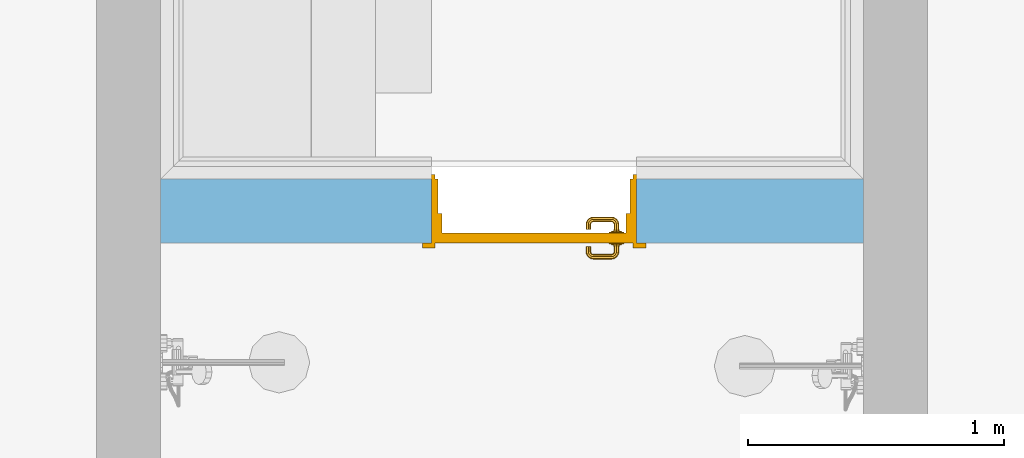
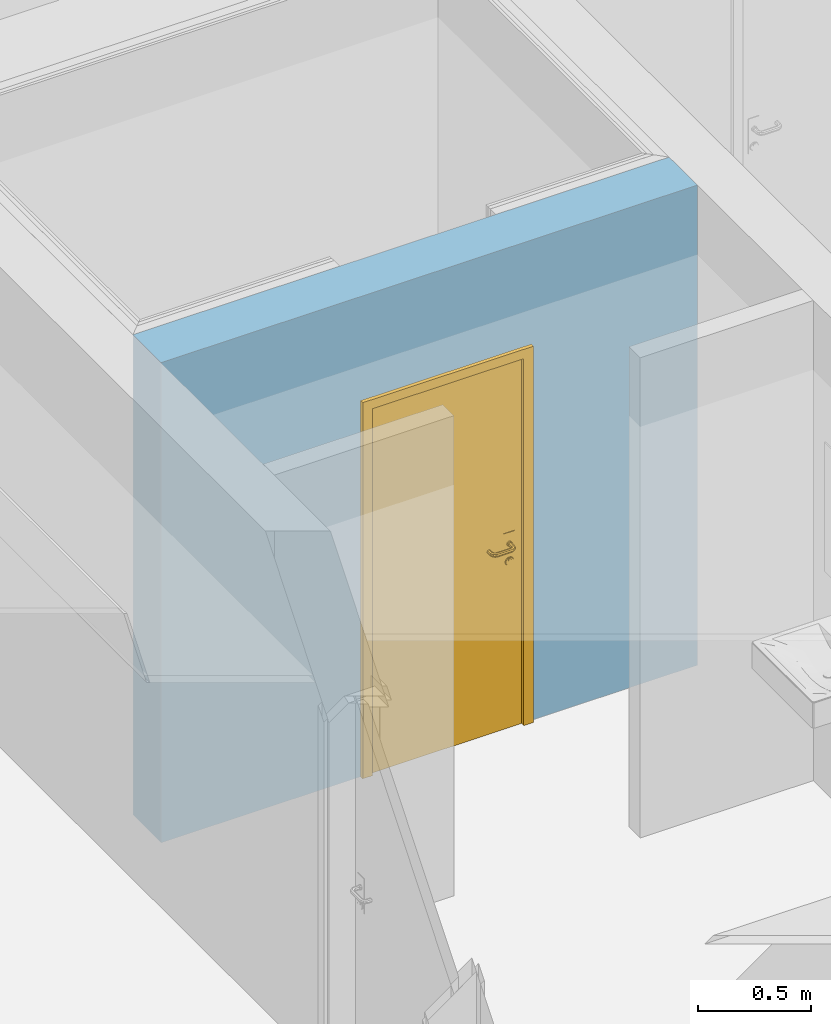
# One storey, part 41 of 127: 1 door, 1 opening, plus 1 element that does not belong to this part.
"""IFC2X3 building model written with IfcOpenShell, lengths in millimetres."""

import ifcopenshell
import ifcopenshell.guid

model = None  # the IFC model being written
_history = None  # IfcOwnerHistory: only IFC2X3 demands one
_inside = {}  # id of a spatial element -> (the spatial element, [elements in it])
_under = {}  # id of a project, library or spatial element -> (it, [spatial elements below it])
_declared = {}  # id of a project -> (the project, [libraries it declares])
_typed = {}  # id of a type object -> (the type object, [elements of that type])
_made_of = {}  # id of a material, layer set ... -> (it, [elements and type objects made of it])


def new_model(schema):
    """Start an empty IFC model of exactly this schema.

    Asked for "IFC4X3", IfcOpenShell would pick the latest addendum, in which some entities
    have other attributes; the version numbers below select the first issue.
    IFC2X3 requires an IfcOwnerHistory on every rooted entity: one is made here for all.
    """
    global model, _history
    if schema == "IFC4X3":
        model = ifcopenshell.file(schema_version=(4, 3, 0, 0))
    else:
        model = ifcopenshell.file(schema=schema)
    _inside.clear()
    _under.clear()
    _declared.clear()
    _typed.clear()
    _made_of.clear()
    _history = None
    if model.schema == "IFC2X3":
        org = make("IfcOrganization", Name="unknown")
        user = make(
            "IfcPersonAndOrganization",
            ThePerson=make("IfcPerson", FamilyName="unknown"),
            TheOrganization=org,
        )
        app = make(
            "IfcApplication",
            ApplicationDeveloper=org,
            Version="unknown",
            ApplicationFullName="unknown",
            ApplicationIdentifier="unknown",
        )
        _history = make(
            "IfcOwnerHistory",
            OwningUser=user,
            OwningApplication=app,
            ChangeAction="ADDED",
            CreationDate=0,
        )
    return model


def make(cls, **values):
    """One entity of the class cls with the attributes given. An attribute that is None is left unset."""
    return model.create_entity(
        cls, **{name: value for name, value in values.items() if value is not None}
    )


def entity(cls, *values):
    """Any entity or typed value of the class cls, its attributes in the order of the schema. None: left unset."""
    e = model.create_entity(cls)
    for i, value in enumerate(values):
        if value is not None:
            e[i] = value
    return e


def rooted(cls, **values):
    """An entity with a GlobalId (a new one), such as an element, a storey or a relation."""
    return make(cls, GlobalId=ifcopenshell.guid.new(), OwnerHistory=_history, **values)


def si_unit(unit_type, name, prefix=None):
    """IfcSIUnit, for example si_unit("LENGTHUNIT", "METRE", prefix="MILLI")."""
    return make("IfcSIUnit", UnitType=unit_type, Prefix=prefix, Name=name)


def converted_unit(unit_type, name, factor, base, dimensions=None, offset=None):
    """IfcConversionBasedUnit, such as the inch: factor (a typed value) times the base unit."""
    return make(
        "IfcConversionBasedUnit"
        if offset is None
        else "IfcConversionBasedUnitWithOffset",
        ConversionOffset=offset,
        Dimensions=None
        if dimensions is None
        else entity("IfcDimensionalExponents", *dimensions),
        UnitType=unit_type,
        Name=name,
        ConversionFactor=make(
            "IfcMeasureWithUnit", ValueComponent=factor, UnitComponent=base
        ),
    )


def derived_unit(unit_type, elements):
    """IfcDerivedUnit: a product of units, each with its exponent."""
    return make(
        "IfcDerivedUnit",
        Elements=[
            make("IfcDerivedUnitElement", Unit=unit, Exponent=power)
            for unit, power in elements
        ],
        UnitType=unit_type,
    )


def money_unit(currency):
    """IfcMonetaryUnit."""
    return make("IfcMonetaryUnit", Currency=currency)


def assignment(units):
    """IfcUnitAssignment: the units of a project."""
    return None if units is None else make("IfcUnitAssignment", Units=units)


def point(xyz):
    """IfcCartesianPoint."""
    return None if xyz is None else make("IfcCartesianPoint", Coordinates=xyz)


def direction(xyz):
    """IfcDirection."""
    return None if xyz is None else make("IfcDirection", DirectionRatios=xyz)


def frame(location, z_axis=None, x_axis=None):
    """IfcAxis2Placement3D, a coordinate frame: its origin and axes. An axis left out is left unset."""
    return make(
        "IfcAxis2Placement3D",
        Location=point(location),
        Axis=direction(z_axis),
        RefDirection=direction(x_axis),
    )


def frame_2d(location, x_axis=None):
    """IfcAxis2Placement2D, a coordinate frame in the plane: its origin and x axis."""
    return make(
        "IfcAxis2Placement2D", Location=point(location), RefDirection=direction(x_axis)
    )


def origin_with_axes():
    """The frame at (0, 0, 0) with the z axis (0, 0, 1) and the x axis (1, 0, 0) written out."""
    return frame((0.0, 0.0, 0.0), z_axis=(0.0, 0.0, 1.0), x_axis=(1.0, 0.0, 0.0))


def origin_2d_with_axis():
    """The frame at (0, 0) in the plane with the x axis (1, 0) written out."""
    return frame_2d((0.0, 0.0), x_axis=(1.0, 0.0))


def place(relative_to, where):
    """IfcLocalPlacement: puts the frame where relative to a parent placement (None: the world)."""
    return make(
        "IfcLocalPlacement", PlacementRelTo=relative_to, RelativePlacement=where
    )


def context(
    kind, dimensions, precision=None, world=None, true_north=None, identifier=None
):
    """IfcGeometricRepresentationContext, for example the 3D "Model" context."""
    return make(
        "IfcGeometricRepresentationContext",
        ContextIdentifier=identifier,
        ContextType=kind,
        CoordinateSpaceDimension=dimensions,
        Precision=precision,
        WorldCoordinateSystem=world,
        TrueNorth=true_north,
    )


def subcontext(parent, identifier, kind, view, scale=None):
    """IfcGeometricRepresentationSubContext, for example "Body" below "Model"."""
    return make(
        "IfcGeometricRepresentationSubContext",
        ContextIdentifier=identifier,
        ContextType=kind,
        ParentContext=parent,
        TargetScale=scale,
        TargetView=view,
    )


def project(units=None, contexts=None):
    """IfcProject with its units and contexts."""
    return rooted(
        "IfcProject",
        Name="project",
        RepresentationContexts=contexts,
        UnitsInContext=assignment(units),
    )


def spatial(cls, under=None, at=None, **own):
    """A site, building, storey or space (cls), placed at a placement, below another one or the project."""
    s = rooted(cls, ObjectPlacement=at, **own)
    if under is not None:
        _under.setdefault(under.id(), (under, []))[1].append(s)
    return s


def polyline(points):
    """IfcPolyline through the points."""
    return make("IfcPolyline", Points=[point(p) for p in points])


def profile(cls, at=None, kind="AREA", **sizes):
    """A parametric profile (cls). Its sizes go by their IFC names, for example OverallWidth=200.0."""
    return make(cls, ProfileType=kind, Position=at, **sizes)


def rectangle(**sizes):
    """IfcRectangleProfileDef."""
    return profile("IfcRectangleProfileDef", **sizes)


def outline(outer, holes=None, kind="AREA"):
    """IfcArbitraryClosedProfileDef: a profile drawn as a closed curve; with holes, ...WithVoids."""
    if holes is None:
        return make("IfcArbitraryClosedProfileDef", ProfileType=kind, OuterCurve=outer)
    return make(
        "IfcArbitraryProfileDefWithVoids",
        ProfileType=kind,
        OuterCurve=outer,
        InnerCurves=holes,
    )


def extrude(swept, where, along, depth):
    """IfcExtrudedAreaSolid: the profile swept, set in the frame where, extruded along a direction by depth."""
    return make(
        "IfcExtrudedAreaSolid",
        SweptArea=swept,
        Position=where,
        ExtrudedDirection=direction(along),
        Depth=depth,
    )


def faces_of(points, faces, orient=None, outer=None):
    """IfcFace entities. A face is a list of loops; a loop is a list of indices into points, from 0.

    orient and outer hold one flag for each loop. By default every Orientation is true, the
    first loop of a face is its IfcFaceOuterBound and the others are IfcFaceBound.
    """
    made = []
    for i, loops in enumerate(faces):
        bounds = []
        for j, loop in enumerate(loops):
            is_outer = j == 0 if outer is None else outer[i][j]
            bounds.append(
                make(
                    "IfcFaceOuterBound" if is_outer else "IfcFaceBound",
                    Bound=make("IfcPolyLoop", Polygon=[points[k] for k in loop]),
                    Orientation=True if orient is None else orient[i][j],
                )
            )
        made.append(make("IfcFace", Bounds=bounds))
    return made


def open_shell(faces, orient=None, outer=None):
    """The faces of one IfcOpenShell. surface_model builds it on its shared points."""
    return ("IfcOpenShell", faces, orient, outer)


def faceted_brep(points, faces, orient=None, outer=None, voids=None):
    """IfcFacetedBrep: a solid bounded by flat faces; with voids (closed shells), ...WithVoids."""
    shared = [point(p) for p in points]
    hull = make("IfcClosedShell", CfsFaces=faces_of(shared, faces, orient, outer))
    if voids is None:
        return make("IfcFacetedBrep", Outer=hull)
    return make(
        "IfcFacetedBrepWithVoids",
        Outer=hull,
        Voids=[
            make(cls, CfsFaces=faces_of(shared, fs, o, b)) for cls, fs, o, b in voids
        ],
    )


def surface_model(cls, points, shells):
    """IfcFaceBasedSurfaceModel or IfcShellBasedSurfaceModel (cls): surfaces that need not close."""
    shared = [point(p) for p in points]
    made = [make(c, CfsFaces=faces_of(shared, fs, o, b)) for c, fs, o, b in shells]
    if cls == "IfcFaceBasedSurfaceModel":
        return make(cls, FbsmFaces=made)
    return make(cls, SbsmBoundary=made)


def shape(context_of_items, identifier, shape_type, items):
    """IfcShapeRepresentation: the items that make up one representation, for example the "Body"."""
    return make(
        "IfcShapeRepresentation",
        ContextOfItems=context_of_items,
        RepresentationIdentifier=identifier,
        RepresentationType=shape_type,
        Items=items,
    )


def material(Name=None, Category=None):
    """IfcMaterial."""
    return make("IfcMaterial", Name=Name, Category=Category)


def layer(
    of_material, thickness, ventilated=None, Name=None, Category=None, Priority=None
):
    """IfcMaterialLayer: one layer of a wall or slab, of a material (None: an air gap)."""
    return make(
        "IfcMaterialLayer",
        Material=of_material,
        LayerThickness=thickness,
        IsVentilated=ventilated,
        Name=Name,
        Category=Category,
        Priority=Priority,
    )


def layer_set(layers, Name=None):
    """IfcMaterialLayerSet."""
    return make("IfcMaterialLayerSet", MaterialLayers=layers, LayerSetName=Name)


def layer_usage(for_layer_set, set_direction, sense, offset, extent=None):
    """IfcMaterialLayerSetUsage: how a layer set lies in its element."""
    return make(
        "IfcMaterialLayerSetUsage",
        ForLayerSet=for_layer_set,
        LayerSetDirection=set_direction,
        DirectionSense=sense,
        OffsetFromReferenceLine=offset,
        ReferenceExtent=extent,
    )


def made_of(thing, what):
    """Note that an element or type object is made of a material, layer set ...; save() writes the relation."""
    if what is not None:
        _made_of.setdefault(what.id(), (what, []))[1].append(thing)
    return thing


def type_object(cls, material=None, **own):
    """A type object (cls), such as IfcWallType, which elements share."""
    return made_of(rooted(cls, **own), material)


def element(
    cls,
    number,
    at=None,
    inside=None,
    cuts=None,
    type_object=None,
    material=None,
    context=None,
    identifier="Body",
    shape_type=None,
    held_by="IfcProductDefinitionShape",
    body=None,
    shapes=None,
    **own,
):
    """One element of the class cls, such as IfcWall. Its Tag is "e" and its number.

    at: its placement. inside: the storey or other place that contains it. cuts: it is an
    opening in that element (IfcRelVoidsElement). A single representation is given by context,
    identifier, shape_type and body (its items); several are given by shapes. held_by: the class
    of the entity that holds the representations. save() writes the other relations.
    """
    e = rooted(cls, Tag="e%d" % number, ObjectPlacement=at, **own)
    if body is not None:
        shapes = [shape(context, identifier, shape_type, body)]
    if shapes is not None:
        e.Representation = make(held_by, Representations=shapes)
    if inside is not None:
        _inside.setdefault(inside.id(), (inside, []))[1].append(e)
    if cuts is not None:
        rooted(
            "IfcRelVoidsElement", RelatingBuildingElement=cuts, RelatedOpeningElement=e
        )
    if type_object is not None:
        _typed.setdefault(type_object.id(), (type_object, []))[1].append(e)
    return made_of(e, material)


def fill(opening, filler):
    """IfcRelFillsElement: the door or window that sits in an opening."""
    return rooted(
        "IfcRelFillsElement",
        RelatingOpeningElement=opening,
        RelatedBuildingElement=filler,
    )


def aggregate(whole, parts):
    """IfcRelAggregates: a whole, such as a stair, and the parts it consists of."""
    return rooted("IfcRelAggregates", RelatingObject=whole, RelatedObjects=parts)


def save(model, path):
    """Write the relations noted so far, then the file.

    IfcRelAggregates (storeys below a building ...), IfcRelContainedInSpatialStructure (elements
    in a storey), IfcRelDefinesByType, IfcRelAssociatesMaterial and IfcRelDeclares: one each for
    every whole, place, type object, material and project.
    """
    for whole, parts in _under.values():
        aggregate(whole, parts)
    for where, things in _inside.values():
        rooted(
            "IfcRelContainedInSpatialStructure",
            RelatedElements=things,
            RelatingStructure=where,
        )
    for kind, things in _typed.values():
        rooted("IfcRelDefinesByType", RelatedObjects=things, RelatingType=kind)
    for what, things in _made_of.values():
        rooted("IfcRelAssociatesMaterial", RelatedObjects=things, RelatingMaterial=what)
    for by, libraries in _declared.values():
        rooted("IfcRelDeclares", RelatingContext=by, RelatedDefinitions=libraries)
    model.write(path)


model = new_model("IFC2X3")

# Units and contexts
model_context = context("Model", 3, precision=1e-05, world=origin_with_axes(), true_north=direction((0.0, 1.0)))
body_context = subcontext(model_context, "Body", "Model", "MODEL_VIEW")
ifc_project = project(units=[si_unit("LENGTHUNIT", "METRE", prefix="MILLI"), si_unit("AREAUNIT", "SQUARE_METRE"), si_unit("VOLUMEUNIT", "CUBIC_METRE"), converted_unit("PLANEANGLEUNIT", "DEGREE", entity("IfcPlaneAngleMeasure", 0.0174532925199), si_unit("PLANEANGLEUNIT", "RADIAN"), dimensions=[0, 0, 0, 0, 0, 0, 0]), si_unit("SOLIDANGLEUNIT", "STERADIAN"), money_unit("EUR"), converted_unit("TIMEUNIT", "Year", entity("IfcTimeMeasure", 31556926.0), si_unit("TIMEUNIT", "SECOND"), dimensions=[0, 0, 1, 0, 0, 0, 0]), si_unit("MASSUNIT", "GRAM", prefix="KILO"), si_unit("THERMODYNAMICTEMPERATUREUNIT", "DEGREE_CELSIUS"), si_unit("LUMINOUSINTENSITYUNIT", "LUMEN"), si_unit("ENERGYUNIT", "JOULE", prefix="MEGA"), derived_unit("THERMALCONDUCTANCEUNIT", [(si_unit("POWERUNIT", "WATT"), 1), (si_unit("LENGTHUNIT", "METRE"), -1), (si_unit("THERMODYNAMICTEMPERATUREUNIT", "KELVIN"), -1)]), derived_unit("SPECIFICHEATCAPACITYUNIT", [(si_unit("ENERGYUNIT", "JOULE"), 1), (si_unit("MASSUNIT", "GRAM", prefix="KILO"), -1), (si_unit("THERMODYNAMICTEMPERATUREUNIT", "KELVIN"), -1)]), derived_unit("MASSDENSITYUNIT", [(si_unit("MASSUNIT", "GRAM", prefix="KILO"), 1), (si_unit("VOLUMEUNIT", "CUBIC_METRE"), -1)])], contexts=[model_context])

# Site, building, storey
site_placement = place(None, origin_with_axes())
site = spatial("IfcSite", under=ifc_project, at=site_placement, Name="Site", CompositionType="ELEMENT")
building_placement = place(site_placement, origin_with_axes())
building = spatial("IfcBuilding", under=site, at=building_placement, Name="Building", CompositionType="ELEMENT")
storey_placement = place(building_placement, origin_with_axes())
storey = spatial("IfcBuildingStorey", under=building, at=storey_placement, Name="1 KORRUS", CompositionType="ELEMENT", Elevation=0.0)

# Wall, opening, door
ifc_material = material(Name="Kivi -Ol.Olev Konstruktsioon")
ifc_layer = layer(ifc_material, 250.0, ventilated="UNKNOWN")
ifc_layer_set = layer_set([ifc_layer], Name="ol.olev ss 250")
ifc_layer_usage = layer_usage(ifc_layer_set, "AXIS2", "POSITIVE", -250.0)
wall_type = type_object("IfcWallType", Name="SW - 036", PredefinedType="NOTDEFINED")
wall_placement = place(storey_placement, frame((27734.7274585, 62980.8824025, 0.0), z_axis=(0.0, 0.0, 1.0), x_axis=(-1.0, 0.0, 0.0)))
wall = element("IfcWallStandardCase", 1, at=wall_placement, inside=storey, type_object=wall_type, material=ifc_layer_usage, Name="ol.olev ss 250", context=body_context, shape_type="SweptSolid", body=[
    extrude(outline(polyline([(0.0, -250.0), (2746.59080501, -250.0), (2746.59080501, 0.0), (0.0, 0.0), (0.0, -250.0)])), origin_with_axes(), (0.0, 0.0, 1.0), 2600.0),
])
opening_placement = place(wall_placement, frame((1286.98121109, 0.0, 0.0), z_axis=(0.0, 0.0, 1.0), x_axis=(1.0, 0.0, 0.0)))
opening = element("IfcOpeningElement", 2, at=opening_placement, cuts=wall, Name="Sauna uks * Door 22", context=body_context, shape_type="SweptSolid", body=[
    extrude(rectangle(XDim=800.0, YDim=2000.0, at=origin_2d_with_axis()), frame((0.0, -250.0, 1000.0), z_axis=(0.0, 1.0, 0.0), x_axis=(1.0, 0.0, 0.0)), (0.0, 0.0, 1.0), 750.0),
    extrude(rectangle(XDim=874.0, YDim=2037.0, at=origin_2d_with_axis()), frame((0.0, -250.0, 1018.5), z_axis=(0.0, 1.0, 0.0), x_axis=(1.0, 0.0, 0.0)), (0.0, 0.0, -1.0), 250.0),
    extrude(rectangle(XDim=874.0, YDim=2037.0, at=origin_2d_with_axis()), frame((0.0, 0.0, 1018.5), z_axis=(0.0, -1.0, 0.0), x_axis=(1.0, 0.0, 0.0)), (0.0, 0.0, -1.0), 250.0),
])
door_style = type_object("IfcDoorStyle", Name="SU-A108B   800×2\xa0000", ConstructionType="NOTDEFINED", OperationType="SINGLE_SWING_RIGHT", ParameterTakesPrecedence=False, Sizeable=False)
door_placement = place(opening_placement, frame((-400.0, 0.0, 0.0), z_axis=(0.0, 0.0, 1.0), x_axis=(1.0, 0.0, 0.0)))
door = element("IfcDoor", 3, at=door_placement, inside=storey, type_object=door_style, Name="Sauna uks * Door 22", OverallHeight=2000.0, OverallWidth=800.0, context=body_context, shape_type="SurfaceModel", body=[
    faceted_brep([(0.0, -115.0, 0.0), (25.0, -115.0, 0.0), (25.0, -250.0, 0.0), (0.0, -250.0, 0.0), (0.0, -115.0, 2000.0), (25.0, -115.0, 1975.0), (25.0, -250.0, 1975.0), (0.0, -250.0, 2000.0)], [[[0, 1, 2, 3]], [[0, 4, 5, 1]], [[1, 5, 6, 2]], [[3, 2, 6, 7]], [[4, 0, 3, 7]], [[5, 4, 7, 6]]]),
    faceted_brep([(800.0, -115.0, 2000.0), (775.0, -115.0, 1975.0), (775.0, -250.0, 1975.0), (800.0, -250.0, 2000.0), (800.0, -115.0, 0.0), (775.0, -115.0, 0.0), (775.0, -250.0, 0.0), (800.0, -250.0, 0.0)], [[[0, 1, 2, 3]], [[0, 4, 5, 1]], [[1, 5, 6, 2]], [[3, 2, 6, 7]], [[4, 0, 3, 7]], [[5, 4, 7, 6]]]),
    faceted_brep([(25.0, -115.0, 1975.0), (775.0, -115.0, 1975.0), (775.0, -250.0, 1975.0), (25.0, -250.0, 1975.0), (0.0, -115.0, 2000.0), (800.0, -115.0, 2000.0), (800.0, -250.0, 2000.0), (0.0, -250.0, 2000.0)], [[[0, 1, 2, 3]], [[0, 4, 5, 1]], [[1, 5, 6, 2]], [[3, 2, 6, 7]], [[4, 0, 3, 7]], [[5, 4, 7, 6]]]),
    faceted_brep([(-37.0, -269.0, 0.0), (-37.0, -250.0, 0.0), (12.9999999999, -250.0, 0.0), (12.9999999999, -269.0, 0.0), (-37.0, -269.0, 2037.0), (-37.0, -250.0, 2037.0), (12.9999999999, -250.0, 1987.0), (12.9999999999, -269.0, 1987.0)], [[[0, 1, 2, 3]], [[4, 5, 1, 0]], [[1, 5, 6, 2]], [[3, 2, 6, 7]], [[0, 3, 7, 4]], [[7, 6, 5, 4]]]),
    faceted_brep([(837.0, -269.0, 2037.0), (837.0, -250.0, 2037.0), (787.0, -250.0, 1987.0), (787.0, -269.0, 1987.0), (837.0, -269.0, 0.0), (837.0, -250.0, 0.0), (787.0, -250.0, 0.0), (787.0, -269.0, 0.0)], [[[0, 1, 2, 3]], [[4, 5, 1, 0]], [[1, 5, 6, 2]], [[3, 2, 6, 7]], [[0, 3, 7, 4]], [[7, 6, 5, 4]]]),
    faceted_brep([(-37.0, -269.0, 2037.0), (-37.0, -250.0, 2037.0), (12.9999999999, -250.0, 1987.0), (12.9999999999, -269.0, 1987.0), (837.0, -269.0, 2037.0), (837.0, -250.0, 2037.0), (787.0, -250.0, 1987.0), (787.0, -269.0, 1987.0)], [[[0, 1, 2, 3]], [[4, 5, 1, 0]], [[1, 5, 6, 2]], [[3, 2, 6, 7]], [[0, 3, 7, 4]], [[7, 6, 5, 4]]]),
    faceted_brep([(-37.0, 19.0000000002, 0.0), (12.9999999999, 19.0000000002, 0.0), (12.9999999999, 0.0, 0.0), (-37.0, 0.0, 0.0), (-37.0, 19.0000000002, 2037.0), (12.9999999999, 19.0000000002, 1987.0), (12.9999999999, 0.0, 1987.0), (-37.0, 0.0, 2037.0)], [[[0, 1, 2, 3]], [[0, 4, 5, 1]], [[1, 5, 6, 2]], [[3, 2, 6, 7]], [[4, 0, 3, 7]], [[5, 4, 7, 6]]]),
    faceted_brep([(837.0, 19.0000000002, 2037.0), (787.0, 19.0000000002, 1987.0), (787.0, 0.0, 1987.0), (837.0, 0.0, 2037.0), (837.0, 19.0000000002, 0.0), (787.0, 19.0000000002, 0.0), (787.0, 0.0, 0.0), (837.0, 0.0, 0.0)], [[[0, 1, 2, 3]], [[0, 4, 5, 1]], [[1, 5, 6, 2]], [[3, 2, 6, 7]], [[4, 0, 3, 7]], [[5, 4, 7, 6]]]),
    faceted_brep([(-37.0, 19.0000000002, 2037.0), (12.9999999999, 19.0000000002, 1987.0), (12.9999999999, 0.0, 1987.0), (-37.0, 0.0, 2037.0), (837.0, 19.0000000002, 2037.0), (787.0, 19.0000000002, 1987.0), (787.0, 0.0, 1987.0), (837.0, 0.0, 2037.0)], [[[0, 1, 2, 3]], [[0, 4, 5, 1]], [[1, 5, 6, 2]], [[3, 2, 6, 7]], [[4, 0, 3, 7]], [[5, 4, 7, 6]]]),
    faceted_brep([(40.0, -40.0, 0.0), (40.0, -40.0, 1960.0), (40.0, -115.0, 1960.0), (40.0, -115.0, 0.0), (28.0, -40.0, 1960.0), (28.0, -40.0, 0.0), (28.0, 0.0, 1960.0), (0.0, 0.0, 1960.0), (0.0, -115.0, 1960.0), (0.0, -115.0, 0.0), (0.0, 0.0, 0.0), (28.0, 0.0, 0.0)], [[[0, 1, 2, 3]], [[4, 1, 0, 5]], [[4, 6, 7, 8, 2, 1]], [[3, 2, 8, 9]], [[5, 0, 3, 9, 10, 11]], [[6, 4, 5, 11]], [[6, 11, 10, 7]], [[10, 9, 8, 7]]]),
    faceted_brep([(772.0, -40.0, 1960.0), (760.0, -40.0, 1960.0), (760.0, -115.0, 1960.0), (800.0, -115.0, 1960.0), (800.0, 0.0, 1960.0), (772.0, 0.0, 1960.0), (772.0, -40.0, 0.0), (760.0, -40.0, 0.0), (760.0, -115.0, 0.0), (800.0, -115.0, 0.0), (800.0, 0.0, 0.0), (772.0, 0.0, 0.0)], [[[0, 1, 2, 3, 4, 5]], [[1, 0, 6, 7]], [[1, 7, 8, 2]], [[3, 2, 8, 9]], [[4, 3, 9, 10]], [[11, 5, 4, 10]], [[0, 5, 11, 6]], [[6, 11, 10, 9, 8, 7]]]),
    faceted_brep([(28.0, 0.0, 1972.0), (28.0, 0.0, 1960.0), (0.0, 0.0, 1960.0), (0.0, 0.0, 2000.0), (800.0, 0.0, 2000.0), (800.0, 0.0, 1960.0), (772.0, 0.0, 1960.0), (772.0, 0.0, 1972.0), (28.0, -40.0, 1972.0), (28.0, -40.0, 1960.0), (40.0, -40.0, 1960.0), (40.0, -115.0, 1960.0), (0.0, -115.0, 1960.0), (0.0, -115.0, 2000.0), (800.0, -115.0, 2000.0), (800.0, -115.0, 1960.0), (772.0, -40.0, 1960.0), (760.0, -115.0, 1960.0), (760.0, -40.0, 1960.0), (772.0, -40.0, 1972.0)], [[[0, 1, 2, 3, 4, 5, 6, 7]], [[1, 0, 8, 9]], [[9, 10, 11, 12, 2, 1]], [[2, 12, 13, 3]], [[3, 13, 14, 4]], [[4, 14, 15, 5]], [[16, 6, 5, 15, 17, 18]], [[7, 6, 16, 19]], [[0, 7, 19, 8]], [[16, 18, 10, 9, 8, 19]], [[10, 18, 17, 11]], [[17, 15, 14, 13, 12, 11]]]),
    faceted_brep([(49.5, -40.0, 1060.0), (49.5, -42.9999999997, 1060.0), (106.5, -42.9999999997, 1060.0), (106.5, -40.0, 1060.0), (49.5, -40.0, 870.0), (49.5, -42.9999999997, 870.0), (106.5, -42.9999999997, 870.0), (106.5, -40.0, 870.0)], [[[0, 1, 2, 3]], [[4, 5, 1, 0]], [[1, 5, 6, 2]], [[3, 2, 6, 7]], [[0, 3, 7, 4]], [[7, 6, 5, 4]]]),
    surface_model("IfcShellBasedSurfaceModel", [(88.0, -52.9999999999, 1000.0), (88.0, -72.0150859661, 1000.0), (85.0710678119, -72.3035606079, 992.928932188), (85.0710678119, -52.9999999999, 992.928932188), (85.0710678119, -52.9999999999, 1007.07106781), (85.0710678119, -72.3035606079, 1007.07106781), (88.9422033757, -76.7518622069, 1000.0), (86.1832095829, -77.8946748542, 992.928932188), (78.0, -73.0000000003, 990.0), (78.0, -52.9999999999, 990.0), (78.0, -52.9999999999, 1010.0), (78.0, -73.0000000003, 1010.0), (86.1832095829, -77.8946748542, 1007.07106781), (91.0674625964, -79.9325374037, 1000.0), (88.9558201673, -82.0441798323, 992.928932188), (79.5224093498, -80.6536686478, 990.0), (70.9289321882, -73.6964393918, 992.928932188), (70.9289321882, -52.9999999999, 992.928932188), (70.9289321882, -52.9999999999, 1007.07106781), (70.9289321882, -73.6964393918, 1007.07106781), (79.5224093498, -80.6536686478, 1010.0), (88.9558201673, -82.0441798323, 1007.07106781), (94.248137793, -82.0577966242, 1000.0), (93.1053251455, -84.8167904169, 992.928932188), (83.8578643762, -87.1421356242, 990.0), (72.8616091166, -83.4126624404, 992.928932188), (68.0, -73.9849140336, 1000.0), (68.0, -52.9999999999, 1000.0), (72.8616091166, -83.4126624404, 1007.07106781), (83.8578643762, -87.1421356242, 1010.0), (93.1053251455, -84.8167904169, 1007.07106781), (98.9849140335, -82.9999999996, 1000.0), (98.696439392, -85.9289321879, 992.928932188), (90.3463313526, -91.4775906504, 990.0), (78.7599085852, -92.2400914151, 992.928932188), (70.1026153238, -84.5554750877, 1000.0), (78.7599085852, -92.2400914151, 1007.07106781), (90.3463313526, -91.4775906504, 1010.0), (98.696439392, -85.9289321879, 1007.07106781), (167.015085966, -82.9999999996, 1000.0), (167.303560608, -85.9289321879, 992.928932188), (98.0, -92.9999999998, 990.0), (87.5873375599, -98.1383908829, 992.928932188), (76.6482661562, -94.3517338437, 1000.0), (87.5873375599, -98.1383908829, 1007.07106781), (98.0, -92.9999999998, 1010.0), (167.303560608, -85.9289321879, 1007.07106781), (171.751862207, -82.0577966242, 1000.0), (172.894674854, -84.8167904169, 992.928932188), (168.0, -92.9999999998, 990.0), (97.303560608, -100.071067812, 992.928932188), (86.4445249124, -100.897384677, 1000.0), (97.303560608, -100.071067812, 1007.07106781), (168.0, -92.9999999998, 1010.0), (172.894674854, -84.8167904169, 1007.07106781), (174.932537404, -79.9325374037, 1000.0), (177.044179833, -82.0441798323, 992.928932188), (175.653668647, -91.4775906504, 990.0), (168.696439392, -100.071067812, 992.928932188), (97.0150859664, -103.0, 1000.0), (168.696439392, -100.071067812, 1007.07106781), (175.653668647, -91.4775906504, 1010.0), (177.044179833, -82.0441798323, 1007.07106781), (177.057796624, -76.7518622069, 1000.0), (179.816790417, -77.8946748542, 992.928932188), (182.142135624, -87.1421356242, 990.0), (178.41266244, -98.1383908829, 992.928932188), (168.984914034, -103.0, 1000.0), (178.41266244, -98.1383908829, 1007.07106781), (182.142135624, -87.1421356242, 1010.0), (179.816790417, -77.8946748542, 1007.07106781), (178.0, -72.0150859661, 1000.0), (180.928932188, -72.3035606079, 992.928932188), (186.47759065, -80.6536686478, 990.0), (187.240091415, -92.2400914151, 992.928932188), (179.555475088, -100.897384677, 1000.0), (187.240091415, -92.2400914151, 1007.07106781), (186.47759065, -80.6536686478, 1010.0), (180.928932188, -72.3035606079, 1007.07106781), (178.0, -52.9999999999, 1000.0), (180.928932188, -52.9999999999, 992.928932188), (188.0, -73.0000000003, 990.0), (193.138390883, -83.4126624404, 992.928932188), (189.351733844, -94.3517338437, 1000.0), (193.138390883, -83.4126624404, 1007.07106781), (188.0, -73.0000000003, 1010.0), (180.928932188, -52.9999999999, 1007.07106781), (188.0, -52.9999999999, 1010.0), (195.071067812, -52.9999999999, 1007.07106781), (198.0, -52.9999999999, 1000.0), (195.071067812, -52.9999999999, 992.928932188), (188.0, -52.9999999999, 990.0), (195.071067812, -73.6964393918, 992.928932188), (195.897384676, -84.5554750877, 1000.0), (195.071067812, -73.6964393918, 1007.07106781), (198.0, -73.9849140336, 1000.0)], [open_shell([[[0, 1, 2, 3]], [[4, 5, 1, 0]], [[1, 6, 7, 2]], [[3, 2, 8, 9]], [[10, 11, 5, 4]], [[5, 12, 6, 1]], [[6, 13, 14, 7]], [[2, 7, 15, 8]], [[9, 8, 16, 17]], [[18, 19, 11, 10]], [[11, 20, 12, 5]], [[12, 21, 13, 6]], [[13, 22, 23, 14]], [[7, 14, 24, 15]], [[8, 15, 25, 16]], [[17, 16, 26, 27]], [[27, 26, 19, 18]], [[19, 28, 20, 11]], [[20, 29, 21, 12]], [[21, 30, 22, 13]], [[22, 31, 32, 23]], [[14, 23, 33, 24]], [[15, 24, 34, 25]], [[16, 25, 35, 26]], [[26, 35, 28, 19]], [[28, 36, 29, 20]], [[29, 37, 30, 21]], [[30, 38, 31, 22]], [[31, 39, 40, 32]], [[23, 32, 41, 33]], [[24, 33, 42, 34]], [[25, 34, 43, 35]], [[35, 43, 36, 28]], [[36, 44, 37, 29]], [[37, 45, 38, 30]], [[38, 46, 39, 31]], [[39, 47, 48, 40]], [[32, 40, 49, 41]], [[33, 41, 50, 42]], [[34, 42, 51, 43]], [[43, 51, 44, 36]], [[44, 52, 45, 37]], [[45, 53, 46, 38]], [[46, 54, 47, 39]], [[47, 55, 56, 48]], [[40, 48, 57, 49]], [[41, 49, 58, 50]], [[42, 50, 59, 51]], [[51, 59, 52, 44]], [[52, 60, 53, 45]], [[53, 61, 54, 46]], [[54, 62, 55, 47]], [[55, 63, 64, 56]], [[48, 56, 65, 57]], [[49, 57, 66, 58]], [[50, 58, 67, 59]], [[59, 67, 60, 52]], [[60, 68, 61, 53]], [[61, 69, 62, 54]], [[62, 70, 63, 55]], [[63, 71, 72, 64]], [[56, 64, 73, 65]], [[57, 65, 74, 66]], [[58, 66, 75, 67]], [[67, 75, 68, 60]], [[68, 76, 69, 61]], [[69, 77, 70, 62]], [[70, 78, 71, 63]], [[71, 79, 80, 72]], [[64, 72, 81, 73]], [[65, 73, 82, 74]], [[66, 74, 83, 75]], [[75, 83, 76, 68]], [[76, 84, 77, 69]], [[77, 85, 78, 70]], [[78, 86, 79, 71]], [[79, 86, 87, 88, 89, 90, 91, 80]], [[72, 80, 91, 81]], [[73, 81, 92, 82]], [[74, 82, 93, 83]], [[83, 93, 84, 76]], [[84, 94, 85, 77]], [[85, 87, 86, 78]], [[94, 88, 87, 85]], [[95, 89, 88, 94]], [[92, 90, 89, 95]], [[81, 91, 90, 92]], [[82, 92, 95, 93]], [[93, 95, 94, 84]]])]),
    faceted_brep([(88.3923048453, -52.9999999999, 994.0), (89.2583302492, -42.9999999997, 993.5), (91.0, -42.9999999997, 1000.0), (90.0, -52.9999999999, 1000.0), (83.9999999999, -52.9999999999, 989.607695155), (84.4999999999, -42.9999999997, 988.741669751), (78.0, -42.9999999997, 987.0), (71.5, -42.9999999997, 988.741669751), (66.7416697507, -42.9999999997, 993.5), (64.9999999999, -42.9999999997, 1000.0), (66.7416697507, -42.9999999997, 1006.5), (71.5, -42.9999999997, 1011.25833025), (78.0, -42.9999999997, 1013.0), (84.4999999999, -42.9999999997, 1011.25833025), (89.2583302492, -42.9999999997, 1006.5), (88.3923048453, -52.9999999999, 1006.0), (83.9999999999, -52.9999999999, 1010.39230485), (78.0, -52.9999999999, 1012.0), (72.0, -52.9999999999, 1010.39230485), (67.6076951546, -52.9999999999, 1006.0), (66.0, -52.9999999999, 1000.0), (67.6076951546, -52.9999999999, 994.0), (72.0, -52.9999999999, 989.607695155), (78.0, -52.9999999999, 988.0)], [[[0, 1, 2, 3]], [[4, 5, 1, 0]], [[2, 1, 5, 6, 7, 8, 9, 10, 11, 12, 13, 14]], [[3, 2, 14, 15]], [[3, 15, 16, 17, 18, 19, 20, 21, 22, 23, 4, 0]], [[23, 6, 5, 4]], [[22, 7, 6, 23]], [[21, 8, 7, 22]], [[20, 9, 8, 21]], [[19, 10, 9, 20]], [[18, 11, 10, 19]], [[17, 12, 11, 18]], [[16, 13, 12, 17]], [[15, 14, 13, 16]]]),
    faceted_brep([(95.3205080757, -46.9999999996, 895.0), (97.0525588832, -42.9999999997, 894.0), (100.0, -42.9999999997, 905.0), (98.0, -46.9999999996, 905.0), (88.0, -46.9999999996, 887.679491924), (88.9999999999, -42.9999999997, 885.947441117), (78.0, -42.9999999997, 883.0), (67.0, -42.9999999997, 885.947441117), (58.9474411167, -42.9999999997, 894.0), (55.9999999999, -42.9999999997, 905.0), (58.9474411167, -42.9999999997, 916.0), (67.0, -42.9999999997, 924.052558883), (78.0, -42.9999999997, 927.0), (88.9999999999, -42.9999999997, 924.052558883), (97.0525588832, -42.9999999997, 916.0), (95.3205080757, -46.9999999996, 915.0), (88.0, -46.9999999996, 922.320508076), (78.0, -46.9999999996, 925.0), (68.0, -46.9999999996, 922.320508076), (60.6794919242, -46.9999999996, 915.0), (58.0, -46.9999999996, 905.0), (60.6794919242, -46.9999999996, 895.0), (68.0, -46.9999999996, 887.679491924), (78.0, -46.9999999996, 885.0)], [[[0, 1, 2, 3]], [[4, 5, 1, 0]], [[2, 1, 5, 6, 7, 8, 9, 10, 11, 12, 13, 14]], [[3, 2, 14, 15]], [[3, 15, 16, 17, 18, 19, 20, 21, 22, 23, 4, 0]], [[23, 6, 5, 4]], [[22, 7, 6, 23]], [[21, 8, 7, 22]], [[20, 9, 8, 21]], [[19, 10, 9, 20]], [[18, 11, 10, 19]], [[17, 12, 11, 18]], [[16, 13, 12, 17]], [[15, 14, 13, 16]]]),
    faceted_brep([(82.9497474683, -49.0, 909.050252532), (83.6568542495, -46.9999999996, 908.343145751), (86.0, -46.9999999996, 914.0), (84.9999999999, -49.0, 914.0), (78.0, -49.0, 907.0), (78.0, -46.9999999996, 906.0), (72.3431457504, -46.9999999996, 908.343145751), (69.9999999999, -46.9999999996, 914.0), (72.3431457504, -46.9999999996, 919.656854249), (78.0, -46.9999999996, 922.0), (83.6568542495, -46.9999999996, 919.656854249), (82.9497474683, -49.0, 918.949747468), (78.0, -49.0, 921.0), (73.0502525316, -49.0, 918.949747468), (71.0, -49.0, 914.0), (73.0502525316, -49.0, 909.050252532)], [[[0, 1, 2, 3]], [[4, 5, 1, 0]], [[2, 1, 5, 6, 7, 8, 9, 10]], [[3, 2, 10, 11]], [[3, 11, 12, 13, 14, 15, 4, 0]], [[15, 6, 5, 4]], [[14, 7, 6, 15]], [[13, 8, 7, 14]], [[12, 9, 8, 13]], [[11, 10, 9, 12]]]),
    faceted_brep([(49.5, 0.0, 1060.0), (106.5, 0.0, 1060.0), (106.5, 2.9999999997, 1060.0), (49.5, 2.9999999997, 1060.0), (49.5, 0.0, 870.0), (106.5, 0.0, 870.0), (106.5, 2.9999999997, 870.0), (49.5, 2.9999999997, 870.0)], [[[0, 1, 2, 3]], [[0, 4, 5, 1]], [[1, 5, 6, 2]], [[3, 2, 6, 7]], [[4, 0, 3, 7]], [[5, 4, 7, 6]]]),
    surface_model("IfcShellBasedSurfaceModel", [(88.0, 12.9999999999, 1000.0), (85.0710678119, 12.9999999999, 992.928932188), (85.0710678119, 32.3035606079, 992.928932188), (88.0, 32.0150859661, 1000.0), (78.0, 12.9999999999, 990.0), (78.0, 33.0000000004, 990.0), (86.1832095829, 37.8946748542, 992.928932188), (88.9422033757, 36.751862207, 1000.0), (85.0710678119, 12.9999999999, 1007.07106781), (85.0710678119, 32.3035606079, 1007.07106781), (70.9289321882, 12.9999999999, 992.928932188), (70.9289321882, 33.6964393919, 992.928932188), (79.5224093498, 40.6536686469, 990.0), (88.9558201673, 42.0441798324, 992.928932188), (91.0674625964, 39.9325374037, 1000.0), (86.1832095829, 37.8946748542, 1007.07106781), (78.0, 12.9999999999, 1010.0), (78.0, 33.0000000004, 1010.0), (68.0, 12.9999999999, 1000.0), (68.0, 33.9849140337, 1000.0), (72.8616091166, 43.4126624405, 992.928932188), (83.8578643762, 47.1421356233, 990.0), (93.1053251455, 44.8167904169, 992.928932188), (94.248137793, 42.0577966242, 1000.0), (88.9558201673, 42.0441798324, 1007.07106781), (79.5224093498, 40.6536686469, 1010.0), (70.9289321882, 12.9999999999, 1007.07106781), (70.9289321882, 33.6964393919, 1007.07106781), (70.1026153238, 44.5554750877, 1000.0), (78.7599085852, 52.2400914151, 992.928932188), (90.3463313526, 51.4775906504, 990.0), (98.696439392, 45.928932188, 992.928932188), (98.9849140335, 42.9999999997, 1000.0), (93.1053251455, 44.8167904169, 1007.07106781), (83.8578643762, 47.1421356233, 1010.0), (72.8616091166, 43.4126624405, 1007.07106781), (76.6482661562, 54.3517338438, 1000.0), (87.5873375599, 58.138390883, 992.928932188), (98.0, 52.9999999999, 990.0), (167.303560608, 45.928932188, 992.928932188), (167.015085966, 42.9999999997, 1000.0), (98.696439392, 45.928932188, 1007.07106781), (90.3463313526, 51.4775906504, 1010.0), (78.7599085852, 52.2400914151, 1007.07106781), (86.4445249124, 60.8973846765, 1000.0), (97.303560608, 60.0710678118, 992.928932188), (168.0, 52.9999999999, 990.0), (172.894674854, 44.8167904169, 992.928932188), (171.751862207, 42.0577966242, 1000.0), (167.303560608, 45.928932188, 1007.07106781), (98.0, 52.9999999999, 1010.0), (87.5873375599, 58.138390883, 1007.07106781), (97.0150859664, 63.0000000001, 1000.0), (168.696439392, 60.0710678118, 992.928932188), (175.653668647, 51.4775906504, 990.0), (177.044179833, 42.0441798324, 992.928932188), (174.932537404, 39.9325374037, 1000.0), (172.894674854, 44.8167904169, 1007.07106781), (168.0, 52.9999999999, 1010.0), (97.303560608, 60.0710678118, 1007.07106781), (168.984914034, 63.0000000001, 1000.0), (178.41266244, 58.138390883, 992.928932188), (182.142135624, 47.1421356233, 990.0), (179.816790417, 37.8946748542, 992.928932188), (177.057796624, 36.751862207, 1000.0), (177.044179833, 42.0441798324, 1007.07106781), (175.653668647, 51.4775906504, 1010.0), (168.696439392, 60.0710678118, 1007.07106781), (179.555475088, 60.8973846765, 1000.0), (187.240091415, 52.2400914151, 992.928932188), (186.47759065, 40.6536686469, 990.0), (180.928932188, 32.3035606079, 992.928932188), (178.0, 32.0150859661, 1000.0), (179.816790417, 37.8946748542, 1007.07106781), (182.142135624, 47.1421356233, 1010.0), (178.41266244, 58.138390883, 1007.07106781), (189.351733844, 54.3517338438, 1000.0), (193.138390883, 43.4126624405, 992.928932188), (188.0, 33.0000000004, 990.0), (180.928932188, 12.9999999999, 992.928932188), (178.0, 12.9999999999, 1000.0), (180.928932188, 32.3035606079, 1007.07106781), (186.47759065, 40.6536686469, 1010.0), (187.240091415, 52.2400914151, 1007.07106781), (195.897384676, 44.5554750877, 1000.0), (195.071067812, 33.6964393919, 992.928932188), (188.0, 12.9999999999, 990.0), (195.071067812, 12.9999999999, 992.928932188), (198.0, 12.9999999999, 1000.0), (195.071067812, 12.9999999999, 1007.07106781), (188.0, 12.9999999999, 1010.0), (180.928932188, 12.9999999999, 1007.07106781), (188.0, 33.0000000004, 1010.0), (193.138390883, 43.4126624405, 1007.07106781), (198.0, 33.9849140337, 1000.0), (195.071067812, 33.6964393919, 1007.07106781)], [open_shell([[[0, 1, 2, 3]], [[1, 4, 5, 2]], [[3, 2, 6, 7]], [[8, 0, 3, 9]], [[4, 10, 11, 5]], [[2, 5, 12, 6]], [[7, 6, 13, 14]], [[9, 3, 7, 15]], [[16, 8, 9, 17]], [[10, 18, 19, 11]], [[5, 11, 20, 12]], [[6, 12, 21, 13]], [[14, 13, 22, 23]], [[15, 7, 14, 24]], [[17, 9, 15, 25]], [[26, 16, 17, 27]], [[18, 26, 27, 19]], [[11, 19, 28, 20]], [[12, 20, 29, 21]], [[13, 21, 30, 22]], [[23, 22, 31, 32]], [[24, 14, 23, 33]], [[25, 15, 24, 34]], [[27, 17, 25, 35]], [[19, 27, 35, 28]], [[20, 28, 36, 29]], [[21, 29, 37, 30]], [[22, 30, 38, 31]], [[32, 31, 39, 40]], [[33, 23, 32, 41]], [[34, 24, 33, 42]], [[35, 25, 34, 43]], [[28, 35, 43, 36]], [[29, 36, 44, 37]], [[30, 37, 45, 38]], [[31, 38, 46, 39]], [[40, 39, 47, 48]], [[41, 32, 40, 49]], [[42, 33, 41, 50]], [[43, 34, 42, 51]], [[36, 43, 51, 44]], [[37, 44, 52, 45]], [[38, 45, 53, 46]], [[39, 46, 54, 47]], [[48, 47, 55, 56]], [[49, 40, 48, 57]], [[50, 41, 49, 58]], [[51, 42, 50, 59]], [[44, 51, 59, 52]], [[45, 52, 60, 53]], [[46, 53, 61, 54]], [[47, 54, 62, 55]], [[56, 55, 63, 64]], [[57, 48, 56, 65]], [[58, 49, 57, 66]], [[59, 50, 58, 67]], [[52, 59, 67, 60]], [[53, 60, 68, 61]], [[54, 61, 69, 62]], [[55, 62, 70, 63]], [[64, 63, 71, 72]], [[65, 56, 64, 73]], [[66, 57, 65, 74]], [[67, 58, 66, 75]], [[60, 67, 75, 68]], [[61, 68, 76, 69]], [[62, 69, 77, 70]], [[63, 70, 78, 71]], [[72, 71, 79, 80]], [[73, 64, 72, 81]], [[74, 65, 73, 82]], [[75, 66, 74, 83]], [[68, 75, 83, 76]], [[69, 76, 84, 77]], [[70, 77, 85, 78]], [[71, 78, 86, 79]], [[80, 79, 86, 87, 88, 89, 90, 91]], [[81, 72, 80, 91]], [[82, 73, 81, 92]], [[83, 74, 82, 93]], [[76, 83, 93, 84]], [[77, 84, 94, 85]], [[78, 85, 87, 86]], [[85, 94, 88, 87]], [[94, 95, 89, 88]], [[95, 92, 90, 89]], [[92, 81, 91, 90]], [[93, 82, 92, 95]], [[84, 93, 95, 94]]])]),
    faceted_brep([(88.3923048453, 12.9999999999, 994.0), (90.0, 12.9999999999, 1000.0), (91.0, 2.9999999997, 1000.0), (89.2583302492, 2.9999999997, 993.5), (83.9999999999, 12.9999999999, 989.607695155), (78.0, 12.9999999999, 988.0), (72.0, 12.9999999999, 989.607695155), (67.6076951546, 12.9999999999, 994.0), (66.0, 12.9999999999, 1000.0), (67.6076951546, 12.9999999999, 1006.0), (72.0, 12.9999999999, 1010.39230485), (78.0, 12.9999999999, 1012.0), (83.9999999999, 12.9999999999, 1010.39230485), (88.3923048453, 12.9999999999, 1006.0), (89.2583302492, 2.9999999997, 1006.5), (84.4999999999, 2.9999999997, 1011.25833025), (78.0, 2.9999999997, 1013.0), (71.5, 2.9999999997, 1011.25833025), (66.7416697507, 2.9999999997, 1006.5), (64.9999999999, 2.9999999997, 1000.0), (66.7416697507, 2.9999999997, 993.5), (71.5, 2.9999999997, 988.741669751), (78.0, 2.9999999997, 987.0), (84.4999999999, 2.9999999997, 988.741669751)], [[[0, 1, 2, 3]], [[1, 0, 4, 5, 6, 7, 8, 9, 10, 11, 12, 13]], [[1, 13, 14, 2]], [[2, 14, 15, 16, 17, 18, 19, 20, 21, 22, 23, 3]], [[4, 0, 3, 23]], [[5, 4, 23, 22]], [[6, 5, 22, 21]], [[7, 6, 21, 20]], [[8, 7, 20, 19]], [[9, 8, 19, 18]], [[10, 9, 18, 17]], [[11, 10, 17, 16]], [[12, 11, 16, 15]], [[13, 12, 15, 14]]]),
    faceted_brep([(95.3205080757, 6.99999999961, 895.0), (98.0, 6.99999999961, 905.0), (100.0, 2.9999999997, 905.0), (97.0525588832, 2.9999999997, 894.0), (88.0, 6.99999999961, 887.679491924), (78.0, 6.99999999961, 885.0), (68.0, 6.99999999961, 887.679491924), (60.6794919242, 6.99999999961, 895.0), (58.0, 6.99999999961, 905.0), (60.6794919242, 6.99999999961, 915.0), (68.0, 6.99999999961, 922.320508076), (78.0, 6.99999999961, 925.0), (88.0, 6.99999999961, 922.320508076), (95.3205080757, 6.99999999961, 915.0), (97.0525588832, 2.9999999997, 916.0), (88.9999999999, 2.9999999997, 924.052558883), (78.0, 2.9999999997, 927.0), (67.0, 2.9999999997, 924.052558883), (58.9474411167, 2.9999999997, 916.0), (55.9999999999, 2.9999999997, 905.0), (58.9474411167, 2.9999999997, 894.0), (67.0, 2.9999999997, 885.947441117), (78.0, 2.9999999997, 883.0), (88.9999999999, 2.9999999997, 885.947441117)], [[[0, 1, 2, 3]], [[1, 0, 4, 5, 6, 7, 8, 9, 10, 11, 12, 13]], [[1, 13, 14, 2]], [[2, 14, 15, 16, 17, 18, 19, 20, 21, 22, 23, 3]], [[4, 0, 3, 23]], [[5, 4, 23, 22]], [[6, 5, 22, 21]], [[7, 6, 21, 20]], [[8, 7, 20, 19]], [[9, 8, 19, 18]], [[10, 9, 18, 17]], [[11, 10, 17, 16]], [[12, 11, 16, 15]], [[13, 12, 15, 14]]]),
    faceted_brep([(82.9497474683, 9.00000000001, 909.050252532), (84.9999999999, 9.00000000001, 914.0), (86.0, 6.99999999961, 914.0), (83.6568542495, 6.99999999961, 908.343145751), (78.0, 9.00000000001, 907.0), (73.0502525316, 9.00000000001, 909.050252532), (71.0, 9.00000000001, 914.0), (73.0502525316, 9.00000000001, 918.949747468), (78.0, 9.00000000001, 921.0), (82.9497474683, 9.00000000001, 918.949747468), (83.6568542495, 6.99999999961, 919.656854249), (78.0, 6.99999999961, 922.0), (72.3431457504, 6.99999999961, 919.656854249), (69.9999999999, 6.99999999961, 914.0), (72.3431457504, 6.99999999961, 908.343145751), (78.0, 6.99999999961, 906.0)], [[[0, 1, 2, 3]], [[1, 0, 4, 5, 6, 7, 8, 9]], [[1, 9, 10, 2]], [[2, 10, 11, 12, 13, 14, 15, 3]], [[4, 0, 3, 15]], [[5, 4, 15, 14]], [[6, 5, 14, 13]], [[7, 6, 13, 12]], [[8, 7, 12, 11]], [[9, 8, 11, 10]]]),
    faceted_brep([(772.0, 0.0, 0.0), (772.0, -40.0, 0.0), (28.0, -40.0, 0.0), (28.0, 0.0, 0.0), (772.0, 0.0, 1972.0), (772.0, -40.0, 1972.0), (28.0, -40.0, 1972.0), (28.0, 0.0, 1972.0)], [[[0, 1, 2, 3]], [[4, 5, 1, 0]], [[1, 5, 6, 2]], [[3, 2, 6, 7]], [[0, 3, 7, 4]], [[7, 6, 5, 4]]]),
])
fill(opening, door)

save(model, "model.ifc")
